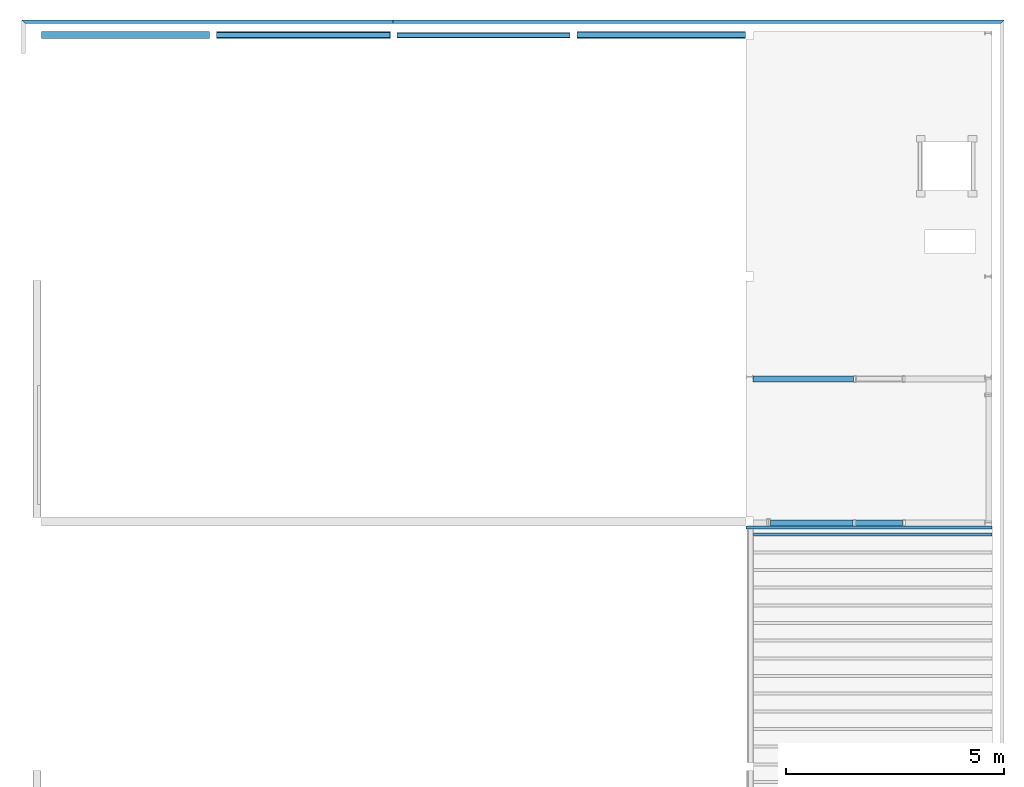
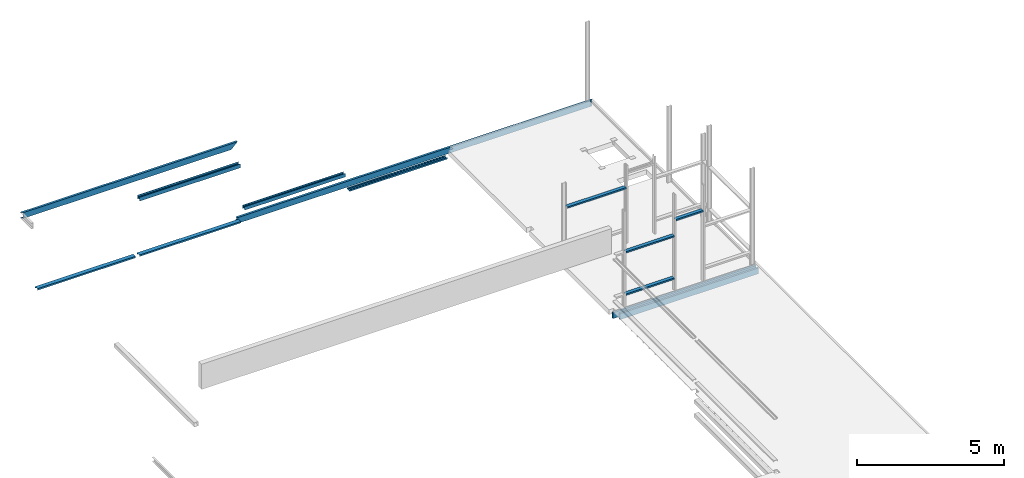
# One storey, part 4 of 8: 13 beams.
"""IFC2X3 building model written with IfcOpenShell, lengths in millimetres."""

from ifc_helpers import new_model, entity, si_unit, converted_unit, derived_unit, direction, frame, frame_2d, origin, place, context, subcontext, project, spatial, polyline, circle_curve, parameter, trimmed, segment, composite_curve, rectangle, i_section, outline, extrude, clip, halfspace, material, type_object, element, save


model = new_model("IFC2X3")

# Units and contexts
model_context = context("Model", 3, precision=0.01, world=origin(), true_north=direction((6.123031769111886e-17, 1.0)))
plan_context = context("Plan", 3, precision=0.01, world=origin(), true_north=direction((6.123031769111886e-17, 1.0)))
body_context = subcontext(model_context, "Body", "Model", "MODEL_VIEW")
ifc_project = project(units=[si_unit("LENGTHUNIT", "METRE", prefix="MILLI"), si_unit("AREAUNIT", "SQUARE_METRE"), si_unit("VOLUMEUNIT", "CUBIC_METRE"), converted_unit("PLANEANGLEUNIT", "DEGREE", entity("IfcPlaneAngleMeasure", 0.017453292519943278), si_unit("PLANEANGLEUNIT", "RADIAN"), dimensions=[0, 0, 0, 0, 0, 0, 0]), si_unit("MASSUNIT", "GRAM", prefix="KILO"), derived_unit("MASSDENSITYUNIT", [(si_unit("MASSUNIT", "GRAM", prefix="KILO"), 1), (si_unit("LENGTHUNIT", "METRE"), -3)]), derived_unit("IONCONCENTRATIONUNIT", [(si_unit("MASSUNIT", "GRAM", prefix="KILO"), 1), (si_unit("LENGTHUNIT", "METRE"), -3)]), derived_unit("MOMENTOFINERTIAUNIT", [(si_unit("LENGTHUNIT", "METRE"), 4)]), si_unit("TIMEUNIT", "SECOND"), si_unit("FREQUENCYUNIT", "HERTZ"), si_unit("THERMODYNAMICTEMPERATUREUNIT", "DEGREE_CELSIUS"), derived_unit("THERMALTRANSMITTANCEUNIT", [(si_unit("MASSUNIT", "GRAM", prefix="KILO"), 1), (si_unit("THERMODYNAMICTEMPERATUREUNIT", "KELVIN"), -1), (si_unit("TIMEUNIT", "SECOND"), -3)]), derived_unit("THERMALCONDUCTANCEUNIT", [(si_unit("MASSUNIT", "GRAM", prefix="KILO"), 1), (si_unit("THERMODYNAMICTEMPERATUREUNIT", "KELVIN"), -1), (si_unit("TIMEUNIT", "SECOND"), -3), (si_unit("LENGTHUNIT", "METRE"), 1)]), derived_unit("VOLUMETRICFLOWRATEUNIT", [(si_unit("LENGTHUNIT", "METRE", prefix="DECI"), 3), (si_unit("TIMEUNIT", "SECOND"), -1)]), derived_unit("MASSFLOWRATEUNIT", [(si_unit("MASSUNIT", "GRAM", prefix="KILO"), 1), (si_unit("TIMEUNIT", "SECOND"), -1)]), derived_unit("ROTATIONALFREQUENCYUNIT", [(si_unit("TIMEUNIT", "SECOND"), -1)]), si_unit("ELECTRICCURRENTUNIT", "AMPERE"), si_unit("ELECTRICVOLTAGEUNIT", "VOLT"), si_unit("POWERUNIT", "WATT"), si_unit("FORCEUNIT", "NEWTON", prefix="KILO"), si_unit("ILLUMINANCEUNIT", "LUX"), si_unit("LUMINOUSFLUXUNIT", "LUMEN"), si_unit("LUMINOUSINTENSITYUNIT", "CANDELA"), si_unit("ENERGYUNIT", "JOULE"), derived_unit("USERDEFINED", [(si_unit("MASSUNIT", "GRAM", prefix="KILO"), -1), (si_unit("LENGTHUNIT", "METRE"), -2), (si_unit("TIMEUNIT", "SECOND"), 3), (si_unit("LUMINOUSFLUXUNIT", "LUMEN"), 1)]), derived_unit("USERDEFINED", [(si_unit("MASSUNIT", "GRAM", prefix="KILO"), 1), (si_unit("TIMEUNIT", "SECOND"), -3), (si_unit("LENGTHUNIT", "METRE"), 3), (si_unit("ELECTRICCURRENTUNIT", "AMPERE"), -2)]), derived_unit("SOUNDPOWERUNIT", [(si_unit("MASSUNIT", "GRAM", prefix="KILO"), 1), (si_unit("TIMEUNIT", "SECOND"), -3), (si_unit("LENGTHUNIT", "METRE"), 2)]), derived_unit("SOUNDPRESSUREUNIT", [(si_unit("MASSUNIT", "GRAM", prefix="KILO"), 1), (si_unit("LENGTHUNIT", "METRE"), -1), (si_unit("TIMEUNIT", "SECOND"), -2)]), derived_unit("LINEARVELOCITYUNIT", [(si_unit("LENGTHUNIT", "METRE"), 1), (si_unit("TIMEUNIT", "SECOND"), -1)]), si_unit("PRESSUREUNIT", "PASCAL"), derived_unit("USERDEFINED", [(si_unit("MASSUNIT", "GRAM", prefix="KILO"), 1), (si_unit("LENGTHUNIT", "METRE"), -2), (si_unit("TIMEUNIT", "SECOND"), -2)]), derived_unit("LINEARFORCEUNIT", [(si_unit("MASSUNIT", "GRAM", prefix="KILO"), 1), (si_unit("TIMEUNIT", "SECOND"), -2)]), derived_unit("PLANARFORCEUNIT", [(si_unit("MASSUNIT", "GRAM", prefix="KILO"), 1), (si_unit("LENGTHUNIT", "METRE"), -1), (si_unit("TIMEUNIT", "SECOND"), -2)]), derived_unit("SPECIFICHEATCAPACITYUNIT", [(si_unit("THERMODYNAMICTEMPERATUREUNIT", "KELVIN"), -1), (si_unit("LENGTHUNIT", "METRE"), 2), (si_unit("TIMEUNIT", "SECOND"), -2)]), derived_unit("HEATFLUXDENSITYUNIT", [(si_unit("MASSUNIT", "GRAM", prefix="KILO"), 1), (si_unit("TIMEUNIT", "SECOND"), -3)]), derived_unit("HEATINGVALUEUNIT", [(si_unit("LENGTHUNIT", "METRE"), 2), (si_unit("TIMEUNIT", "SECOND"), -2)]), derived_unit("VAPORPERMEABILITYUNIT", [(si_unit("LENGTHUNIT", "METRE"), -1), (si_unit("TIMEUNIT", "SECOND"), 1)]), derived_unit("DYNAMICVISCOSITYUNIT", [(si_unit("MASSUNIT", "GRAM", prefix="KILO"), 1), (si_unit("TIMEUNIT", "SECOND"), -1), (si_unit("LENGTHUNIT", "METRE"), -1)]), derived_unit("THERMALEXPANSIONCOEFFICIENTUNIT", [(si_unit("THERMODYNAMICTEMPERATUREUNIT", "KELVIN"), -1)]), derived_unit("MODULUSOFELASTICITYUNIT", [(si_unit("MASSUNIT", "GRAM", prefix="KILO"), 1), (si_unit("LENGTHUNIT", "METRE"), -1), (si_unit("TIMEUNIT", "SECOND"), -2)]), derived_unit("ISOTHERMALMOISTURECAPACITYUNIT", [(si_unit("MASSUNIT", "GRAM", prefix="KILO"), -1), (si_unit("LENGTHUNIT", "METRE"), 3)]), derived_unit("MOISTUREDIFFUSIVITYUNIT", [(si_unit("TIMEUNIT", "SECOND"), -1), (si_unit("LENGTHUNIT", "METRE"), 2)]), derived_unit("MASSPERLENGTHUNIT", [(si_unit("MASSUNIT", "GRAM", prefix="KILO"), 1), (si_unit("LENGTHUNIT", "METRE"), -1)]), derived_unit("THERMALRESISTANCEUNIT", [(si_unit("MASSUNIT", "GRAM", prefix="KILO"), -1), (si_unit("TIMEUNIT", "SECOND"), 3), (si_unit("THERMODYNAMICTEMPERATUREUNIT", "KELVIN"), 1)]), derived_unit("ACCELERATIONUNIT", [(si_unit("LENGTHUNIT", "METRE"), 1), (si_unit("TIMEUNIT", "SECOND"), -2)]), derived_unit("ANGULARVELOCITYUNIT", [(si_unit("TIMEUNIT", "SECOND"), -1), (si_unit("PLANEANGLEUNIT", "RADIAN"), 1)]), derived_unit("LINEARSTIFFNESSUNIT", [(si_unit("MASSUNIT", "GRAM", prefix="KILO"), 1), (si_unit("TIMEUNIT", "SECOND"), -2)]), derived_unit("WARPINGCONSTANTUNIT", [(si_unit("LENGTHUNIT", "METRE"), 6)]), derived_unit("LINEARMOMENTUNIT", [(si_unit("MASSUNIT", "GRAM", prefix="KILO"), 1), (si_unit("LENGTHUNIT", "METRE"), 1), (si_unit("TIMEUNIT", "SECOND"), -2)]), derived_unit("TORQUEUNIT", [(si_unit("MASSUNIT", "GRAM", prefix="KILO"), 1), (si_unit("LENGTHUNIT", "METRE"), 2), (si_unit("TIMEUNIT", "SECOND"), -2)])], contexts=[model_context, plan_context])

# Site, building, storey
site_placement = place(None, origin())
site = spatial("IfcSite", under=ifc_project, at=site_placement, Name="Default", CompositionType="ELEMENT")
building_placement = place(site_placement, origin())
building = spatial("IfcBuilding", under=site, at=building_placement, CompositionType="ELEMENT")
storey_placement = place(building_placement, frame((0.0, 0.0, 3410.0)))
storey = spatial("IfcBuildingStorey", under=building, at=storey_placement, Name="01 eerste verdieping", CompositionType="ELEMENT", Elevation=3410.0000000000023)

# Beams
ifc_material_1 = material(Name="constructiehout C24")
beam_type_1 = type_object("IfcBeamType", Name="28_SF_LIB_houten ligger rechthoekig_dw:70x245 (C24)", PredefinedType="NOTDEFINED")
beam_1_placement = place(storey_placement, frame((50414.19293735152, 27357.670485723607, 110.0)))
element("IfcBeam", 1, at=beam_1_placement, inside=storey, type_object=beam_type_1, material=ifc_material_1, Name="28_SF_LIB_houten ligger rechthoekig_dw:70x245 (C24)", ObjectType="28_SF_LIB_houten ligger rechthoekig_dw:70x245 (C24)", context=body_context, shape_type="SweptSolid", body=[
    extrude(rectangle(XDim=244.99999999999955, YDim=70.0000000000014, at=frame_2d((-2.7711166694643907e-13, 0.0), x_axis=(1.0, 0.0))), frame((0.0, 0.0, -240.50000000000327), z_axis=(1.0, 0.0, 0.0), x_axis=(0.0, 0.0, -1.0)), (0.0, 0.0, 1.0), 5632.000000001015),
])
beam_2_placement = place(storey_placement, frame((50586.19293735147, 27192.67041296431, 0.0)))
element("IfcBeam", 2, at=beam_2_placement, inside=storey, type_object=beam_type_1, material=ifc_material_1, Name="28_SF_LIB_houten ligger rechthoekig_dw:70x245 (C24)", ObjectType="28_SF_LIB_houten ligger rechthoekig_dw:70x245 (C24)", context=body_context, shape_type="SweptSolid", body=[
    extrude(rectangle(XDim=244.99999999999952, YDim=70.0000000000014, at=frame_2d((2.7711166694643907e-13, 0.0), x_axis=(1.0, 0.0))), frame((0.0, 0.0, -130.5000000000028), z_axis=(1.0, 0.0, 0.0), x_axis=(0.0, 0.0, -1.0)), (0.0, 0.0, 1.0), 5460.000000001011),
])
ifc_material_2 = material(Name="constructiestaal S235")
beam_type_2 = type_object("IfcBeamType", Name="28_SF_LIB_HEA ligger_dw:HE160A (S235)", PredefinedType="NOTDEFINED")
beam_3_placement = place(storey_placement, frame((42246.192937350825, 38576.67050785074, 2145.0), z_axis=(0.0, 0.0, 1.0), x_axis=(-1.0, 0.0, 0.0)))
element("IfcBeam", 3, at=beam_3_placement, inside=storey, type_object=beam_type_2, material=ifc_material_2, Name="28_SF_LIB_HEA ligger_dw:HE160A (S235)", ObjectType="28_SF_LIB_HEA ligger_dw:HE160A (S235)", context=body_context, shape_type="SweptSolid", body=[
    extrude(i_section(OverallWidth=159.99999999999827, OverallDepth=152.00000000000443, WebThickness=5.999999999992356, FlangeThickness=8.99999999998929, FilletRadius=15.000000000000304, at=frame_2d((-1.6271428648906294e-12, -6.501466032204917e-12), x_axis=(1.0, 0.0))), frame((0.0, -76.0, 0.0), z_axis=(1.0, 0.0, 0.0), x_axis=(0.0, 0.0, -1.0)), (0.0, 0.0, 1.0), 3969.999422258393),
])
beam_type_3 = type_object("IfcBeamType", Name="28_SF_LIB_UNP ligger_dw:UNP160 (S235)", PredefinedType="NOTDEFINED")
beam_4_placement = place(storey_placement, frame((38116.19293735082, 38572.67050785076, -189.3999999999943), z_axis=(0.0, 0.0, 1.0), x_axis=(-1.0, 0.0, 0.0)))
element("IfcBeam", 4, at=beam_4_placement, inside=storey, type_object=beam_type_3, material=ifc_material_2, Name="28_SF_LIB_UNP ligger_dw:UNP160 (S235)", ObjectType="28_SF_LIB_UNP ligger_dw:UNP160 (S235)", context=body_context, shape_type="SweptSolid", body=[
    extrude(outline(composite_curve([segment(polyline([(-35.75000000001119, -79.93760274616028), (29.249999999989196, -79.93760274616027)]), True, "CONTINUOUS"), segment(polyline([(29.249999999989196, -79.93760274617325), (29.249999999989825, -75.21770177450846)]), True, "CONTINUOUS"), segment(trimmed(circle_curve(frame_2d((23.749999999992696, -75.21770177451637), x_axis=(1.0, 0.0)), 5.499999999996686), [parameter(0.0)], [parameter(90.0000000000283)], True, "PARAMETER"), True, "CONTINUOUS"), segment(polyline([(23.749999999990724, -69.71770177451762), (-18.250000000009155, -67.32541273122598)]), True, "CONTINUOUS"), segment(trimmed(circle_curve(frame_2d((-18.250000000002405, -57.325412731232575), x_axis=(0.0, -1.0)), 10.000000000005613), [parameter(270.00000000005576)], [parameter(0.0)], True, "PARAMETER"), False, "CONTINUOUS"), segment(polyline([(-28.250000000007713, -57.32541273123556), (-28.249999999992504, 56.81086063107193)]), True, "CONTINUOUS"), segment(trimmed(circle_curve(frame_2d((-18.249999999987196, 56.8108606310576), x_axis=(-1.0, 0.0)), 10.000000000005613), [parameter(270.00000000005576)], [parameter(0.0)], True, "PARAMETER"), False, "CONTINUOUS"), segment(polyline([(-18.249999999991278, 66.81086063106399), (23.750000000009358, 70.1074593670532)]), True, "CONTINUOUS"), segment(trimmed(circle_curve(frame_2d((23.750000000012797, 75.60745936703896), x_axis=(0.0, -1.0)), 5.499999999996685), [parameter(0.0)], [parameter(90.00000000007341)], True, "PARAMETER"), True, "CONTINUOUS"), segment(polyline([(29.250000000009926, 75.60745936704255), (29.25000000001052, 80.06239725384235)]), True, "CONTINUOUS"), segment(polyline([(29.25000000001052, 80.06239725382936), (-35.74999999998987, 80.06239725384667)]), True, "CONTINUOUS"), segment(polyline([(-35.74999999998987, 80.06239725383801), (-35.75000000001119, -79.93760274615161)]), True, "CONTINUOUS")], self_intersect=False)), frame((0.0, -80.06239725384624, -17.349999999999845), z_axis=(1.0, 0.0, 0.0), x_axis=(0.0, 0.0, -1.0)), (0.0, 0.0, 1.0), 3859.9999999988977),
])
beam_5_placement = place(storey_placement, frame((46536.19293735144, 38572.670507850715, -406.6000000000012)))
element("IfcBeam", 5, at=beam_5_placement, inside=storey, type_object=beam_type_3, material=ifc_material_2, Name="28_SF_LIB_UNP ligger_dw:UNP160 (S235)", ObjectType="28_SF_LIB_UNP ligger_dw:UNP160 (S235)", context=body_context, shape_type="SweptSolid", body=[
    extrude(outline(composite_curve([segment(polyline([(-29.25000000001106, -80.06239725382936), (35.74999999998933, -80.06239725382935)]), True, "CONTINUOUS"), segment(polyline([(35.74999999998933, -80.06239725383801), (35.75000000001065, 79.93760274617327)]), True, "CONTINUOUS"), segment(polyline([(35.75000000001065, 79.93760274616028), (-29.249999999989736, 79.93760274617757)]), True, "CONTINUOUS"), segment(polyline([(-29.249999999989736, 79.93760274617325), (-29.249999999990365, 75.21770177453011)]), True, "CONTINUOUS"), segment(trimmed(circle_curve(frame_2d((-23.749999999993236, 75.21770177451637), x_axis=(-1.0, 0.0)), 5.499999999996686), [parameter(0.0)], [parameter(90.0000000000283)], True, "PARAMETER"), True, "CONTINUOUS"), segment(polyline([(-23.749999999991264, 69.71770177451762), (18.250000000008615, 67.32541273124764)]), True, "CONTINUOUS"), segment(trimmed(circle_curve(frame_2d((18.250000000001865, 57.325412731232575), x_axis=(0.0, 1.0)), 10.000000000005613), [parameter(270.00000000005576)], [parameter(0.0)], True, "PARAMETER"), False, "CONTINUOUS"), segment(polyline([(28.250000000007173, 57.32541273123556), (28.249999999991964, -56.81086063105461)]), True, "CONTINUOUS"), segment(trimmed(circle_curve(frame_2d((18.249999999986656, -56.8108606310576), x_axis=(1.0, 0.0)), 10.000000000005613), [parameter(270.00000000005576)], [parameter(0.0)], True, "PARAMETER"), False, "CONTINUOUS"), segment(polyline([(18.249999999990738, -66.81086063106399), (-23.750000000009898, -70.10745936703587)]), True, "CONTINUOUS"), segment(trimmed(circle_curve(frame_2d((-23.750000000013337, -75.60745936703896), x_axis=(0.0, 1.0)), 5.499999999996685), [parameter(0.0)], [parameter(90.00000000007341)], True, "PARAMETER"), True, "CONTINUOUS"), segment(polyline([(-29.250000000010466, -75.60745936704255), (-29.25000000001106, -80.06239725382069)]), True, "CONTINUOUS")], self_intersect=False)), frame((0.0, 80.06239725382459, 17.349999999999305), z_axis=(1.0, 0.0, 0.0), x_axis=(0.0, 0.0, -1.0)), (0.0, 0.0, 1.0), 3859.9999999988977),
])
beam_6_placement = place(storey_placement, frame((42256.192937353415, 38572.67050785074, -189.3999999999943), z_axis=(0.0, 0.0, 1.0), x_axis=(-1.0, 0.0, 0.0)))
element("IfcBeam", 6, at=beam_6_placement, inside=storey, type_object=beam_type_3, material=ifc_material_2, Name="28_SF_LIB_UNP ligger_dw:UNP160 (S235)", ObjectType="28_SF_LIB_UNP ligger_dw:UNP160 (S235)", context=body_context, shape_type="SweptSolid", body=[
    extrude(outline(composite_curve([segment(polyline([(-35.75000000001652, -79.93760274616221), (29.24999999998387, -79.93760274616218)]), True, "CONTINUOUS"), segment(polyline([(29.24999999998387, -79.93760274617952), (29.249999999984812, -75.21770177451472)]), True, "CONTINUOUS"), segment(trimmed(circle_curve(frame_2d((23.749999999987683, -75.21770177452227), x_axis=(1.0, 0.0)), 5.499999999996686), [parameter(0.0)], [parameter(90.0000000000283)], True, "PARAMETER"), True, "CONTINUOUS"), segment(polyline([(23.749999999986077, -69.71770177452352), (-18.25000000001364, -67.32541273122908)]), True, "CONTINUOUS"), segment(trimmed(circle_curve(frame_2d((-18.250000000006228, -57.32541273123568), x_axis=(0.0, -1.0)), 10.000000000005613), [parameter(270.00000000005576)], [parameter(0.0)], True, "PARAMETER"), False, "CONTINUOUS"), segment(polyline([(-28.250000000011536, -57.325412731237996), (-28.249999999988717, 56.81086063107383)]), True, "CONTINUOUS"), segment(trimmed(circle_curve(frame_2d((-18.24999999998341, 56.810860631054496), x_axis=(-1.0, 0.0)), 10.000000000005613), [parameter(270.00000000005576)], [parameter(0.0)], True, "PARAMETER"), False, "CONTINUOUS"), segment(polyline([(-18.249999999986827, 66.81086063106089), (23.75000000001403, 70.10745936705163)]), True, "CONTINUOUS"), segment(trimmed(circle_curve(frame_2d((23.750000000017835, 75.60745936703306), x_axis=(0.0, -1.0)), 5.499999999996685), [parameter(0.0)], [parameter(90.00000000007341)], True, "PARAMETER"), True, "CONTINUOUS"), segment(polyline([(29.250000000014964, 75.60745936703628), (29.250000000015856, 80.06239725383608)]), True, "CONTINUOUS"), segment(polyline([(29.250000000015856, 80.0623972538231), (-35.74999999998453, 80.06239725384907)]), True, "CONTINUOUS"), segment(polyline([(-35.74999999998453, 80.06239725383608), (-35.75000000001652, -79.93760274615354)]), True, "CONTINUOUS")], self_intersect=False)), frame((0.0, -80.06239725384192, -17.349999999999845), z_axis=(1.0, 0.0, 0.0), x_axis=(0.0, 0.0, -1.0)), (0.0, 0.0, 1.0), 3990.000000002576),
])
beam_type_4 = type_object("IfcBeamType", Name="28_SF_LIB_HEA ligger_dw:HE140A (S235)", PredefinedType="NOTDEFINED")
beam_7_placement = place(storey_placement, frame((46376.1923596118, 38576.67050785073, 310.0), z_axis=(0.0, 0.0, 1.0), x_axis=(-1.0, 0.0, 0.0)))
element("IfcBeam", 7, at=beam_7_placement, inside=storey, type_object=beam_type_4, material=ifc_material_2, Name="28_SF_LIB_HEA ligger_dw:HE140A (S235)", ObjectType="28_SF_LIB_HEA ligger_dw:HE140A (S235)", context=body_context, shape_type="SweptSolid", body=[
    extrude(i_section(OverallWidth=139.9999999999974, OverallDepth=133.0000000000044, WebThickness=5.499999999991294, FlangeThickness=8.499999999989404, FilletRadius=12.000000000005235, at=frame_2d((-1.0871303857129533e-12, -4.334310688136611e-12), x_axis=(1.0, 0.0))), frame((0.0, -66.50000000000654, 0.0), z_axis=(1.0, 0.0, 0.0), x_axis=(0.0, 0.0, -1.0)), (0.0, 0.0, 1.0), 3969.999422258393),
])
beam_type_5 = type_object("IfcBeamType", Name="28_SF_LIB_UNP ligger_dw:UNP240 (S235)", PredefinedType="NOTDEFINED")
beam_8_placement = place(storey_placement, frame((42076.192937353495, 38930.0305078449, -240.0)))
element("IfcBeam", 8, at=beam_8_placement, inside=storey, type_object=beam_type_5, material=ifc_material_2, Name="28_SF_LIB_UNP ligger_dw:UNP240 (S235)", ObjectType="28_SF_LIB_UNP ligger_dw:UNP240 (S235)", context=body_context, shape_type="SweptSolid", body=[
    clip(clip(extrude(outline(composite_curve([segment(polyline([(-120.06239725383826, -46.749999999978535), (119.93760274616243, -46.749999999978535)]), True, "CONTINUOUS"), segment(polyline([(119.93760274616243, -46.75000000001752), (119.93760274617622, 38.250000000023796)]), True, "CONTINUOUS"), segment(polyline([(119.93760274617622, 38.249999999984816), (113.99770177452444, 38.25000000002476)]), True, "CONTINUOUS"), segment(trimmed(circle_curve(frame_2d((113.99770177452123, 31.749999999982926), x_axis=(0.0, 1.0)), 6.499999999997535), [parameter(0.0)], [parameter(90.00000000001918)], True, "PARAMETER"), True, "CONTINUOUS"), segment(polyline([(107.49770177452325, 31.74999999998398), (103.98541273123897, -24.249999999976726)]), True, "CONTINUOUS"), segment(trimmed(circle_curve(frame_2d((90.9854127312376, -24.2500000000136), x_axis=(1.0, 0.0)), 13.000000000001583), [parameter(270.0000000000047)], [parameter(0.0)], True, "PARAMETER"), False, "CONTINUOUS"), segment(polyline([(90.98541273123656, -37.250000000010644), (-90.47086063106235, -37.24999999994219)]), True, "CONTINUOUS"), segment(trimmed(circle_curve(frame_2d((-90.47086063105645, -24.249999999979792), x_axis=(0.0, -1.0)), 13.000000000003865), [parameter(270.0000000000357)], [parameter(0.0)], True, "PARAMETER"), False, "CONTINUOUS"), segment(polyline([(-103.47086063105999, -24.249999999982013), (-107.88745936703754, 31.750000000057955)]), True, "CONTINUOUS"), segment(trimmed(circle_curve(frame_2d((-114.38745936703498, 31.750000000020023), x_axis=(1.0, 0.0)), 6.499999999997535), [parameter(0.0)], [parameter(90.00000000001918)], True, "PARAMETER"), True, "CONTINUOUS"), segment(polyline([(-114.38745936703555, 38.25000000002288), (-120.06239725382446, 38.250000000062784)]), True, "CONTINUOUS"), segment(polyline([(-120.06239725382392, 38.25000000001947), (-120.06239725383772, -46.74999999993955)]), True, "CONTINUOUS")], self_intersect=False)), frame((0.0, 24.38999999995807, -120.06239725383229), z_axis=(1.0, 0.0, 0.0), x_axis=(0.0, 0.0, -1.0)), (0.0, 0.0, 1.0), 14249.999999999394), halfspace(frame((14165.0, -22.36000000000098, 1690.0), z_axis=(0.7071067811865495, -0.7071067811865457, 0.0), x_axis=(-0.7071067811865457, -0.7071067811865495, 0.0)), False)), halfspace(frame((240.0, 1796.7654714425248, 0.0), z_axis=(-0.7071067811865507, 0.0, 0.7071067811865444), x_axis=(0.7071067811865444, 0.0, 0.7071067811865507)), False)),
])
beam_9_placement = place(storey_placement, frame((33806.1929373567, 38930.03050784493, 2920.0)))
element("IfcBeam", 9, at=beam_9_placement, inside=storey, type_object=beam_type_5, material=ifc_material_2, Name="28_SF_LIB_UNP ligger_dw:UNP240 (S235)", ObjectType="28_SF_LIB_UNP ligger_dw:UNP240 (S235)", context=body_context, shape_type="SweptSolid", body=[
    clip(clip(extrude(outline(composite_curve([segment(polyline([(-120.06239725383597, -46.74999999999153), (119.93760274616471, -46.74999999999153)]), True, "CONTINUOUS"), segment(polyline([(119.93760274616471, -46.75000000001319), (119.93760274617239, 38.2500000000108)]), True, "CONTINUOUS"), segment(polyline([(119.93760274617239, 38.24999999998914), (113.99770177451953, 38.25000000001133)]), True, "CONTINUOUS"), segment(trimmed(circle_curve(frame_2d((113.99770177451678, 31.749999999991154), x_axis=(0.0, 1.0)), 6.499999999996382), [parameter(0.0)], [parameter(90.0000000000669)], True, "PARAMETER"), True, "CONTINUOUS"), segment(polyline([(107.49770177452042, 31.749999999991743), (103.9854127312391, -24.249999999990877)]), True, "CONTINUOUS"), segment(trimmed(circle_curve(frame_2d((90.9854127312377, -24.25000000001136), x_axis=(1.0, 0.0)), 13.000000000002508), [parameter(270.0000000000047)], [parameter(0.0)], True, "PARAMETER"), False, "CONTINUOUS"), segment(polyline([(90.98541273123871, -37.25000000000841), (-90.47086063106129, -37.24999999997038)]), True, "CONTINUOUS"), segment(trimmed(circle_curve(frame_2d((-90.4708606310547, -24.249999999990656), x_axis=(0.0, -1.0)), 13.000000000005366), [parameter(270.0000000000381)], [parameter(0.0)], True, "PARAMETER"), False, "CONTINUOUS"), segment(polyline([(-103.47086063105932, -24.249999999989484), (-107.88745936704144, 31.750000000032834)]), True, "CONTINUOUS"), segment(trimmed(circle_curve(frame_2d((-114.3874593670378, 31.750000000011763), x_axis=(1.0, 0.0)), 6.499999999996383), [parameter(0.0)], [parameter(90.0000000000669)], True, "PARAMETER"), True, "CONTINUOUS"), segment(polyline([(-114.3874593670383, 38.25000000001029), (-120.06239725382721, 38.25000000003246)]), True, "CONTINUOUS"), segment(polyline([(-120.06239725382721, 38.2500000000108), (-120.06239725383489, -46.74999999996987)]), True, "CONTINUOUS")], self_intersect=False)), frame((0.0, 24.38999999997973, -120.06239725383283), z_axis=(1.0, 0.0, 0.0), x_axis=(0.0, 0.0, -1.0)), (0.0, 0.0, 1.0), 8509.999999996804), halfspace(frame((8269.999999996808, 1796.7654714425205, -240.0), z_axis=(0.7071067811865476, 0.0, -0.7071067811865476), x_axis=(-0.7071067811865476, 0.0, -0.7071067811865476)), False)), halfspace(frame((0.0, 62.63999999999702, 1870.0), z_axis=(-0.7071067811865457, -0.7071067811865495, 0.0), x_axis=(-0.7071067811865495, 0.7071067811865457, 0.0)), False)),
])
beam_type_6 = type_object("IfcBeamType", Name="28_SF_LIB_UNP ligger_dw:UNP140 (S235)", PredefinedType="NOTDEFINED")
beam_10_placement = place(storey_placement, frame((52926.19293735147, 27532.502495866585, 2950.000016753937)))
element("IfcBeam", 10, at=beam_10_placement, inside=storey, type_object=beam_type_6, material=ifc_material_2, Name="28_SF_LIB_UNP ligger_dw:UNP140 (S235)", ObjectType="28_SF_LIB_UNP ligger_dw:UNP140 (S235)", context=body_context, shape_type="SweptSolid", body=[
    extrude(outline(composite_curve([segment(polyline([(-33.16666666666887, -69.93760274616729), (26.833333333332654, -69.93760274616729)]), True, "CONTINUOUS"), segment(polyline([(26.833333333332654, -69.93760274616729), (26.833333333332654, -65.16520177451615)]), True, "CONTINUOUS"), segment(trimmed(circle_curve(frame_2d((21.833333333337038, -65.16520177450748), x_axis=(1.0, 0.0)), 4.999999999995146), [parameter(0.0)], [parameter(90.00000000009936)], True, "PARAMETER"), True, "CONTINUOUS"), segment(polyline([(21.833333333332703, -60.165201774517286), (-16.16666666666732, -58.14041273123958)]), True, "CONTINUOUS"), segment(trimmed(circle_curve(frame_2d((-16.166666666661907, -48.140412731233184), x_axis=(0.0, -1.0)), 10.00000000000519), [parameter(270.00000000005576)], [parameter(0.0)], True, "PARAMETER"), False, "CONTINUOUS"), segment(polyline([(-26.16666666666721, -48.14041273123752), (-26.16666666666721, 47.625860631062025)]), True, "CONTINUOUS"), segment(trimmed(circle_curve(frame_2d((-16.166666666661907, 47.6258606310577), x_axis=(-1.0, 0.0)), 10.000000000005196), [parameter(270.00000000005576)], [parameter(0.0)], True, "PARAMETER"), False, "CONTINUOUS"), segment(polyline([(-16.16666666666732, 57.62586063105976), (21.833333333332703, 60.554959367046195)]), True, "CONTINUOUS"), segment(trimmed(circle_curve(frame_2d((21.833333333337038, 65.55495936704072), x_axis=(0.0, -1.0)), 4.999999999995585), [parameter(0.0)], [parameter(90.00000000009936)], True, "PARAMETER"), True, "CONTINUOUS"), segment(polyline([(26.833333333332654, 65.55495936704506), (26.833333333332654, 70.06239725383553)]), True, "CONTINUOUS"), segment(polyline([(26.833333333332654, 70.06239725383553), (-33.16666666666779, 70.06239725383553)]), True, "CONTINUOUS"), segment(polyline([(-33.16666666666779, 70.06239725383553), (-33.16666666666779, -69.93760274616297)]), True, "CONTINUOUS")], self_intersect=False)), frame((0.0, -70.06239725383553, -33.16666666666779), z_axis=(1.0, 0.0, 0.0), x_axis=(0.0, 0.0, -1.0)), (0.0, 0.0, 1.0), 1076.0000000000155),
])
beam_11_placement = place(storey_placement, frame((50968.19293735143, 27532.502495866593, 2300.0)))
element("IfcBeam", 11, at=beam_11_placement, inside=storey, type_object=beam_type_6, material=ifc_material_2, Name="28_SF_LIB_UNP ligger_dw:UNP140 (S235)", ObjectType="28_SF_LIB_UNP ligger_dw:UNP140 (S235)", context=body_context, shape_type="SweptSolid", body=[
    extrude(outline(composite_curve([segment(polyline([(-33.166666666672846, -69.93760274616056), (26.833333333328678, -69.93760274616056)]), True, "CONTINUOUS"), segment(polyline([(26.833333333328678, -69.93760274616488), (26.833333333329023, -65.1652017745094)]), True, "CONTINUOUS"), segment(trimmed(circle_curve(frame_2d((21.833333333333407, -65.16520177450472), x_axis=(1.0, 0.0)), 4.999999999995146), [parameter(0.0)], [parameter(90.00000000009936)], True, "PARAMETER"), True, "CONTINUOUS"), segment(polyline([(21.83333333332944, -60.16520177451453), (-16.166666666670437, -58.14041273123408)]), True, "CONTINUOUS"), segment(trimmed(circle_curve(frame_2d((-16.1666666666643, -48.140412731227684), x_axis=(0.0, -1.0)), 10.00000000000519), [parameter(270.00000000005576)], [parameter(0.0)], True, "PARAMETER"), False, "CONTINUOUS"), segment(polyline([(-26.16666666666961, -48.140412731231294), (-26.166666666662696, 47.62586063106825)]), True, "CONTINUOUS"), segment(trimmed(circle_curve(frame_2d((-16.166666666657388, 47.6258606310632), x_axis=(-1.0, 0.0)), 10.000000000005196), [parameter(270.00000000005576)], [parameter(0.0)], True, "PARAMETER"), False, "CONTINUOUS"), segment(polyline([(-16.16666666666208, 57.62586063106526), (21.833333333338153, 60.554959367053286)]), True, "CONTINUOUS"), segment(trimmed(circle_curve(frame_2d((21.833333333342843, 65.55495936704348), x_axis=(0.0, -1.0)), 4.999999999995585), [parameter(0.0)], [parameter(90.00000000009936)], True, "PARAMETER"), True, "CONTINUOUS"), segment(polyline([(26.83333333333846, 65.55495936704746), (26.833333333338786, 70.06239725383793)]), True, "CONTINUOUS"), segment(polyline([(26.833333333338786, 70.06239725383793), (-33.166666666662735, 70.06239725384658)]), True, "CONTINUOUS"), segment(polyline([(-33.16666666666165, 70.06239725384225), (-33.16666666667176, -69.93760274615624)]), True, "CONTINUOUS")], self_intersect=False)), frame((0.0, -70.06239725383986, -33.16666666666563), z_axis=(1.0, 0.0, 0.0), x_axis=(0.0, 0.0, -1.0)), (0.0, 0.0, 1.0), 1897.9999993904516),
])
beam_12_placement = place(storey_placement, frame((50968.19293735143, 27532.502495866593, 540.0)))
element("IfcBeam", 12, at=beam_12_placement, inside=storey, type_object=beam_type_6, material=ifc_material_2, Name="28_SF_LIB_UNP ligger_dw:UNP140 (S235)", ObjectType="28_SF_LIB_UNP ligger_dw:UNP140 (S235)", context=body_context, shape_type="SweptSolid", body=[
    extrude(outline(composite_curve([segment(polyline([(-33.16666666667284, -69.93760274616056), (26.833333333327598, -69.93760274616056)]), True, "CONTINUOUS"), segment(polyline([(26.833333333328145, -69.93760274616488), (26.83333333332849, -65.1652017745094)]), True, "CONTINUOUS"), segment(trimmed(circle_curve(frame_2d((21.833333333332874, -65.16520177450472), x_axis=(1.0, 0.0)), 4.999999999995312), [parameter(0.0)], [parameter(90.00000000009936)], True, "PARAMETER"), True, "CONTINUOUS"), segment(polyline([(21.8333333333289, -60.16520177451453), (-16.166666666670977, -58.14041273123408)]), True, "CONTINUOUS"), segment(trimmed(circle_curve(frame_2d((-16.16666666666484, -48.140412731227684), x_axis=(0.0, -1.0)), 10.000000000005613), [parameter(270.00000000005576)], [parameter(0.0)], True, "PARAMETER"), False, "CONTINUOUS"), segment(polyline([(-26.16666666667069, -48.140412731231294), (-26.166666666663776, 47.62586063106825)]), True, "CONTINUOUS"), segment(trimmed(circle_curve(frame_2d((-16.166666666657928, 47.6258606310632), x_axis=(-1.0, 0.0)), 10.000000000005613), [parameter(270.00000000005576)], [parameter(0.0)], True, "PARAMETER"), False, "CONTINUOUS"), segment(polyline([(-16.16666666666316, 57.62586063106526), (21.833333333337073, 60.554959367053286)]), True, "CONTINUOUS"), segment(trimmed(circle_curve(frame_2d((21.833333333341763, 65.55495936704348), x_axis=(0.0, -1.0)), 4.999999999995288), [parameter(0.0)], [parameter(90.00000000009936)], True, "PARAMETER"), True, "CONTINUOUS"), segment(polyline([(26.83333333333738, 65.55495936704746), (26.833333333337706, 70.06239725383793)]), True, "CONTINUOUS"), segment(polyline([(26.833333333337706, 70.06239725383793), (-33.16666666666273, 70.06239725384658)]), True, "CONTINUOUS"), segment(polyline([(-33.16666666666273, 70.06239725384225), (-33.16666666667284, -69.93760274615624)]), True, "CONTINUOUS")], self_intersect=False)), frame((0.0, -70.06239725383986, -33.16666666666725), z_axis=(1.0, 0.0, 0.0), x_axis=(0.0, 0.0, -1.0)), (0.0, 0.0, 1.0), 1897.9999993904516),
])
beam_13_placement = place(storey_placement, frame((50571.19293735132, 30832.6704857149, 2300.0)))
element("IfcBeam", 13, at=beam_13_placement, inside=storey, type_object=beam_type_6, material=ifc_material_2, Name="28_SF_LIB_UNP ligger_dw:UNP140 (S235)", ObjectType="28_SF_LIB_UNP ligger_dw:UNP140 (S235)", context=body_context, shape_type="SweptSolid", body=[
    extrude(outline(composite_curve([segment(polyline([(-33.16666666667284, -69.93760274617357), (26.833333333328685, -69.93760274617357)]), True, "CONTINUOUS"), segment(polyline([(26.833333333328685, -69.93760274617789), (26.83333333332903, -65.1652017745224)]), True, "CONTINUOUS"), segment(trimmed(circle_curve(frame_2d((21.833333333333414, -65.16520177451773), x_axis=(1.0, 0.0)), 4.999999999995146), [parameter(0.0)], [parameter(90.00000000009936)], True, "PARAMETER"), True, "CONTINUOUS"), segment(polyline([(21.83333333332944, -60.16520177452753), (-16.166666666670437, -58.14041273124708)]), True, "CONTINUOUS"), segment(trimmed(circle_curve(frame_2d((-16.1666666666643, -48.14041273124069), x_axis=(0.0, -1.0)), 10.00000000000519), [parameter(270.00000000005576)], [parameter(0.0)], True, "PARAMETER"), False, "CONTINUOUS"), segment(polyline([(-26.166666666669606, -48.1404127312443), (-26.166666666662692, 47.62586063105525)]), True, "CONTINUOUS"), segment(trimmed(circle_curve(frame_2d((-16.166666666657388, 47.625860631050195), x_axis=(-1.0, 0.0)), 10.000000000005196), [parameter(270.00000000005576)], [parameter(0.0)], True, "PARAMETER"), False, "CONTINUOUS"), segment(polyline([(-16.16666666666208, 57.625860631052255), (21.833333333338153, 60.55495936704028)]), True, "CONTINUOUS"), segment(trimmed(circle_curve(frame_2d((21.83333333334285, 65.55495936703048), x_axis=(0.0, -1.0)), 4.999999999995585), [parameter(0.0)], [parameter(90.00000000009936)], True, "PARAMETER"), True, "CONTINUOUS"), segment(polyline([(26.833333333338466, 65.55495936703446), (26.833333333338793, 70.06239725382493)]), True, "CONTINUOUS"), segment(polyline([(26.833333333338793, 70.06239725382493), (-33.16666666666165, 70.06239725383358)]), True, "CONTINUOUS"), segment(polyline([(-33.16666666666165, 70.06239725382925), (-33.16666666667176, -69.93760274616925)]), True, "CONTINUOUS")], self_intersect=False)), frame((0.0, -70.06239725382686, -33.16666666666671), z_axis=(1.0, 0.0, 0.0), x_axis=(0.0, 0.0, -1.0)), (0.0, 0.0, 1.0), 2304.9999993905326),
])

save(model, "model.ifc")
